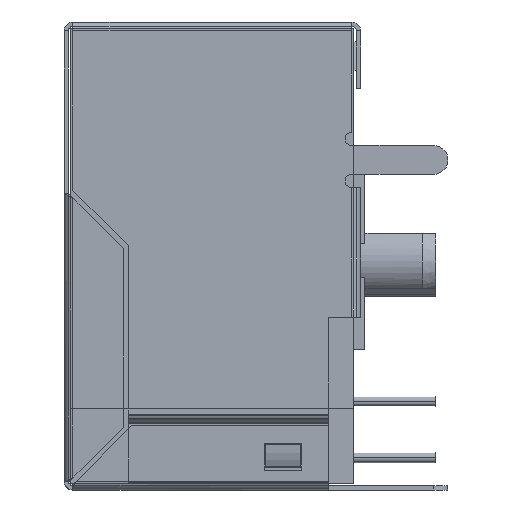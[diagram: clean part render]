
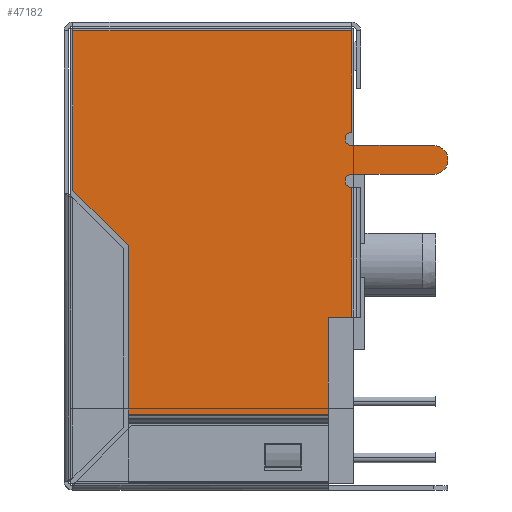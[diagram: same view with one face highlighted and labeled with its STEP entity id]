
A CAD part, left-side view. The second image highlights one B-rep face of the part: STEP entity #47182.
In plain terms, the highlighted planar face has unit normal (-1, 0, 0) as drawn and (1, 0, 0) by its records, which use the part's own axes.
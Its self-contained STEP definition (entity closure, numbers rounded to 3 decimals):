
#38664=DIRECTION('',(0.,0.,1.));
#38665=VECTOR('',#38664,12.6);
#38666=CARTESIAN_POINT('',(57.39,10.175,-12.8));
#38667=LINE('',#38666,#38665);
#38682=CARTESIAN_POINT('',(57.39,3.395,-12.8));
#38683=DIRECTION('',(-1.,0.,0.));
#38684=DIRECTION('',(0.,-1.,0.));
#38685=AXIS2_PLACEMENT_3D('',#38682,#38683,#38684);
#38687=DIRECTION('',(0.,1.,0.));
#38688=VECTOR('',#38687,4.379);
#38689=CARTESIAN_POINT('',(57.39,-7.154,-11.75));
#38690=LINE('',#38689,#38688);
#38691=DIRECTION('',(0.,-1.,0.));
#38692=VECTOR('',#38691,7.067);
#38693=CARTESIAN_POINT('',(57.39,0.492,-2.7));
#38694=LINE('',#38693,#38692);
#38695=DIRECTION('',(0.,-0.705,
-0.71));
#38696=VECTOR('',#38695,3.523);
#38697=CARTESIAN_POINT('',(57.39,2.975,-0.2));
#38698=LINE('',#38697,#38696);
#38699=DIRECTION('',(0.,-1.,0.));
#38700=VECTOR('',#38699,7.2);
#38701=CARTESIAN_POINT('',(57.39,10.175,-0.2));
#38702=LINE('',#38701,#38700);
#38703=DIRECTION('',(0.,1.,0.));
#38704=VECTOR('',#38703,4.58);
#38705=CARTESIAN_POINT('',(57.39,5.595,-12.8));
#38706=LINE('',#38705,#38704);
#38707=CARTESIAN_POINT('',(57.39,5.295,-12.8));
#38708=DIRECTION('',(-1.,0.,0.));
#38709=DIRECTION('',(0.,-1.,0.));
#38710=AXIS2_PLACEMENT_3D('',#38707,#38708,#38709);
#38712=DIRECTION('',(0.,0.,-1.));
#38713=VECTOR('',#38712,3.7);
#38714=CARTESIAN_POINT('',(57.39,4.995,-12.8));
#38715=LINE('',#38714,#38713);
#38716=CARTESIAN_POINT('',(57.39,4.345,-16.5));
#38717=DIRECTION('',(-1.,0.,0.));
#38718=DIRECTION('',(0.,1.,0.));
#38719=AXIS2_PLACEMENT_3D('',#38716,#38717,#38718);
#38721=DIRECTION('',(0.,0.,1.));
#38722=VECTOR('',#38721,3.7);
#38723=CARTESIAN_POINT('',(57.39,3.695,-16.5));
#38724=LINE('',#38723,#38722);
#38768=DIRECTION('',(0.,0.,-1.));
#38769=VECTOR('',#38768,1.05);
#38770=CARTESIAN_POINT('',(57.39,-2.775,-11.75));
#38771=LINE('',#38770,#38769);
#38797=DIRECTION('',(0.,-1.,0.));
#38798=VECTOR('',#38797,5.87);
#38799=CARTESIAN_POINT('',(57.39,3.095,-12.8));
#38800=LINE('',#38799,#38798);
#38900=DIRECTION('',(0.,0.,1.));
#38901=VECTOR('',#38900,9.05);
#38902=CARTESIAN_POINT('',(57.39,-7.154,-11.75));
#38903=LINE('',#38902,#38901);
#39096=DIRECTION('',(0.,-1.,0.));
#39097=VECTOR('',#39096,0.579);
#39098=CARTESIAN_POINT('',(57.39,-6.575,-2.7));
#39099=LINE('',#39098,#39097);
#44849=CARTESIAN_POINT('',(57.39,10.175,-0.2));
#44850=CARTESIAN_POINT('',(57.39,2.975,-0.2));
#44851=VERTEX_POINT('',#44849);
#44852=VERTEX_POINT('',#44850);
#44853=CARTESIAN_POINT('',(57.39,0.492,-2.7));
#44854=VERTEX_POINT('',#44853);
#44855=CARTESIAN_POINT('',(57.39,-6.575,-2.7));
#44856=VERTEX_POINT('',#44855);
#44889=CARTESIAN_POINT('',(57.39,-7.154,-2.7));
#44890=VERTEX_POINT('',#44889);
#45005=CARTESIAN_POINT('',(57.39,-7.154,-11.75));
#45006=CARTESIAN_POINT('',(57.39,-2.775,-11.75));
#45007=VERTEX_POINT('',#45005);
#45008=VERTEX_POINT('',#45006);
#45057=CARTESIAN_POINT('',(57.39,4.995,-16.5));
#45058=CARTESIAN_POINT('',(57.39,3.695,-16.5));
#45059=VERTEX_POINT('',#45057);
#45060=VERTEX_POINT('',#45058);
#45073=CARTESIAN_POINT('',(57.39,4.995,-12.8));
#45074=CARTESIAN_POINT('',(57.39,5.595,-12.8));
#45075=VERTEX_POINT('',#45073);
#45076=VERTEX_POINT('',#45074);
#45077=CARTESIAN_POINT('',(57.39,3.695,-12.8));
#45078=VERTEX_POINT('',#45077);
#45079=CARTESIAN_POINT('',(57.39,10.175,-12.8));
#45080=VERTEX_POINT('',#45079);
#45137=CARTESIAN_POINT('',(57.39,3.095,-12.8));
#45138=VERTEX_POINT('',#45137);
#45149=CARTESIAN_POINT('',(57.39,-2.775,-12.8));
#45150=VERTEX_POINT('',#45149);
#47146=CARTESIAN_POINT('',(57.39,10.575,-3.194));
#47147=DIRECTION('',(1.,0.,0.));
#47148=DIRECTION('',(0.,0.,1.));
#47149=AXIS2_PLACEMENT_3D('',#47146,#47147,#47148);
#47150=PLANE('',#47149);
#47152=ORIENTED_EDGE('',*,*,#47151,.F.);
#47154=ORIENTED_EDGE('',*,*,#47153,.T.);
#47156=ORIENTED_EDGE('',*,*,#47155,.F.);
#47158=ORIENTED_EDGE('',*,*,#47157,.F.);
#47160=ORIENTED_EDGE('',*,*,#47159,.T.);
#47162=ORIENTED_EDGE('',*,*,#47161,.F.);
#47164=ORIENTED_EDGE('',*,*,#47163,.F.);
#47166=ORIENTED_EDGE('',*,*,#47165,.F.);
#47168=ORIENTED_EDGE('',*,*,#47167,.F.);
#47169=ORIENTED_EDGE('',*,*,#47137,.F.);
#47171=ORIENTED_EDGE('',*,*,#47170,.F.);
#47173=ORIENTED_EDGE('',*,*,#47172,.F.);
#47175=ORIENTED_EDGE('',*,*,#47174,.T.);
#47177=ORIENTED_EDGE('',*,*,#47176,.T.);
#47179=ORIENTED_EDGE('',*,*,#47178,.T.);
#47180=EDGE_LOOP('',(#47152,#47154,#47156,#47158,#47160,#47162,#47164,#47166,
#47168,#47169,#47171,#47173,#47175,#47177,#47179));
#47181=FACE_OUTER_BOUND('',#47180,.F.);
#47182=ADVANCED_FACE('',(#47181),#47150,.T.);
#38686=CIRCLE('',#38685,0.3);
#38711=CIRCLE('',#38710,0.3);
#38720=CIRCLE('',#38719,0.65);
#47137=EDGE_CURVE('',#45080,#44851,#38667,.T.);
#47151=EDGE_CURVE('',#45138,#45078,#38686,.T.);
#47153=EDGE_CURVE('',#45138,#45150,#38800,.T.);
#47155=EDGE_CURVE('',#45008,#45150,#38771,.T.);
#47157=EDGE_CURVE('',#45007,#45008,#38690,.T.);
#47159=EDGE_CURVE('',#45007,#44890,#38903,.T.);
#47161=EDGE_CURVE('',#44856,#44890,#39099,.T.);
#47163=EDGE_CURVE('',#44854,#44856,#38694,.T.);
#47165=EDGE_CURVE('',#44852,#44854,#38698,.T.);
#47167=EDGE_CURVE('',#44851,#44852,#38702,.T.);
#47170=EDGE_CURVE('',#45076,#45080,#38706,.T.);
#47172=EDGE_CURVE('',#45075,#45076,#38711,.T.);
#47174=EDGE_CURVE('',#45075,#45059,#38715,.T.);
#47176=EDGE_CURVE('',#45059,#45060,#38720,.T.);
#47178=EDGE_CURVE('',#45060,#45078,#38724,.T.);
